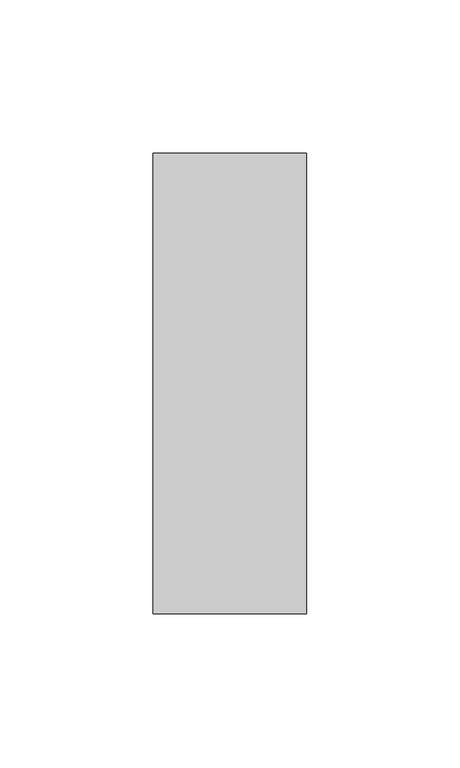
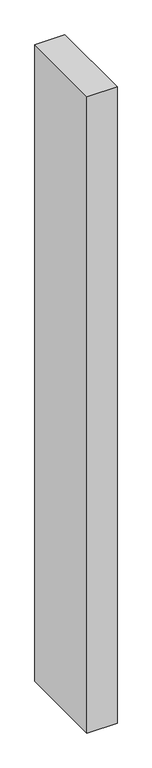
"""IFC4 building model written with IfcOpenShell, lengths in millimetres: member geometry, Прямоугольный импост : 50 x 150 мм."""

from ifc_helpers import new_model, si_unit, frame, origin, place, context, project, spatial, polyline, outline, extrude, source, transform, mapped, element, save


def member_32813fa3(model_context):
    return source(origin(), model_context, "Body", "SweptSolid", [
        extrude(outline(polyline([(25.0, 75.0), (25.0, -75.0), (-25.0, -75.0), (-25.0, 75.0), (25.0, 75.0)])), frame((0.0, 0.0, -1119.1357498), z_axis=(0.0, 0.0, 1.0), x_axis=(1.0, 0.0, 0.0)), (0.0, 0.0, 1.0), 1119.1357498),
    ])


if __name__ == "__main__":
    model = new_model("IFC4")
    model_context = context("Model", 3, world=origin())
    ifc_project = project(units=[si_unit("LENGTHUNIT", "METRE", prefix="MILLI")], contexts=[model_context])
    site = spatial("IfcSite", under=ifc_project)
    building = spatial("IfcBuilding", under=site)
    placement = place(None, origin())
    member_shape = member_32813fa3(model_context)
    element("IfcMember", 1, ObjectType="Прямоугольный импост : 50 x 150 мм", at=placement, inside=building, context=model_context, shape_type="MappedRepresentation", body=[
        mapped(member_shape, transform((0.0, 0.0, 0.0), x_axis=(1.0, 0.0, 0.0), y_axis=(0.0, 1.0, 0.0), z_axis=(0.0, 0.0, 1.0))),
    ])
    save(model, "model.ifc")
